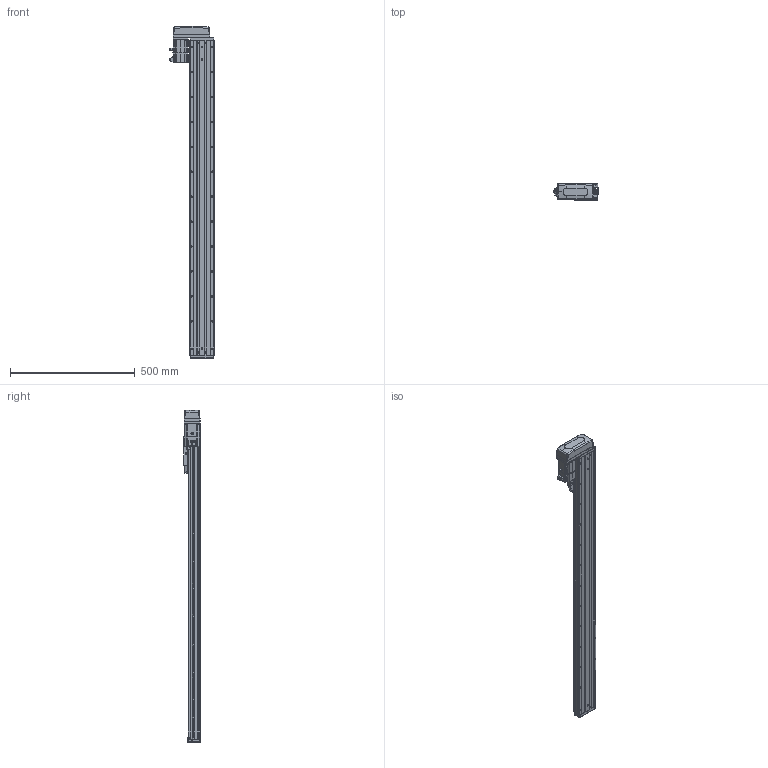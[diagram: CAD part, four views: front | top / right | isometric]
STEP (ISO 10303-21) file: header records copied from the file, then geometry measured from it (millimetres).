
FILE_DESCRIPTION (( 'STEP AP203' ), '1' );
FILE_NAME ('CTHA100-1050-BL-M20-C4L.step', '2022-07-06T09:07:25', ( '微软用户' ), ( '微软中国' ), 'SwSTEP 2.0', 'SolidWorks 2020', '' );
FILE_SCHEMA (( 'CONFIG_CONTROL_DESIGN' ));
Length unit declared in the file: millimetre
Products named in the file (19): CTHA86-030; KTHA100-004; GBT 70.1-M3℅6; GBT 70.3-M3℅6; KTHA100-005; GBT70.1 M5℅16; CTHA86-015-1_CTHA86-015-2; GB¨uT 70.2-M3¡Á5_M3¡Á6; CTHA60-016; CTHA86-033; EE_SX911P_R; _X2_4E0983F1_X0_200W_1; CTHA100-1050-BL-M20-C4L; CTHA60-017; CTHA100-002; CTHA60-021; CTHA100-031; KTHA100-001_1260; GBT77-2000 M3×3
Assembly tree (64 placements, depth 2):
  CTHA100-1050-BL-M20-C4L
    KTHA100-001_1260
    KTHA100-004
    KTHA100-005
    GB¨uT 70.2-M3¡Á5_M3¡Á6  x10
    EE_SX911P_R  x3
    CTHA60-017  x3
    CTHA60-021  x2
    GBT77-2000 M3×3  x6
    GBT 70.1-M3℅6  x10
    GBT70.1 M5℅16  x14
    CTHA60-016  x2
    _X2_4E0983F1_X0_200W_1
    CTHA100-002
    CTHA100-031
    CTHA86-030  x2
    GBT 70.3-M3℅6  x4
    CTHA86-015-1_CTHA86-015-2
    CTHA86-033
Bounding box: 178.52 x 68 x 1331 mm (x, y, z)
Volume: 5248116.3 mm3; surface area: 864009.8 mm2
Topology: 66 solids, 66 shells, 2769 faces, 6695 edges, 4156 vertices
Faces by surface type: plane 1452, cylinder 731, cone 363, torus 124, bspline 75, sphere 24
Entity records: 49222 total; most frequent: CARTESIAN_POINT 9595, DIRECTION 7644, ORIENTED_EDGE 7506, EDGE_CURVE 3753, AXIS2_PLACEMENT_3D 2577, LINE 2490, VECTOR 2490, VERTEX_POINT 2376
